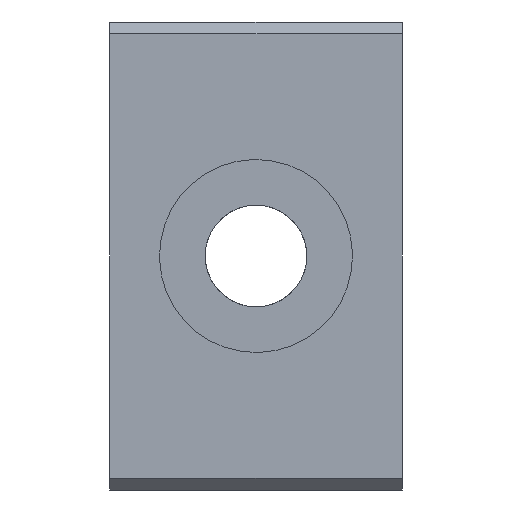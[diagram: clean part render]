
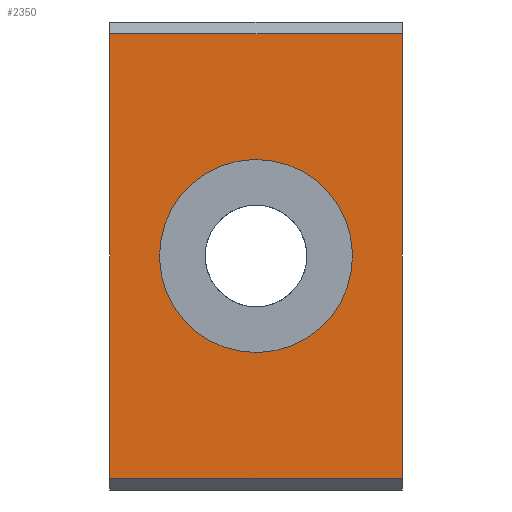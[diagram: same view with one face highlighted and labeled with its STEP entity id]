
A CAD part, left-side view. The second image highlights one B-rep face of the part: STEP entity #2350.
In plain terms, the highlighted planar face has unit normal (-1, 0, 0).
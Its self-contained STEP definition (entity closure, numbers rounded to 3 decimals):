
#256=CARTESIAN_POINT('Line Origine',(-50.,0.,0.)) ;
#260=CARTESIAN_POINT('Vertex',(-50.,0.,-19.)) ;
#262=CARTESIAN_POINT('Vertex',(-50.,0.,19.)) ;
#1351=CARTESIAN_POINT('Axis2P3D Location',(-50.,12.5,0.)) ;
#1355=CARTESIAN_POINT('Vertex',(-50.,19.74,3.955)) ;
#1357=CARTESIAN_POINT('Vertex',(-50.,5.26,-3.955)) ;
#1386=CARTESIAN_POINT('Axis2P3D Location',(-50.,12.5,0.)) ;
#2316=CARTESIAN_POINT('Axis2P3D Location',(-50.,0.,19.)) ;
#2321=CARTESIAN_POINT('Line Origine',(-50.,12.5,-19.)) ;
#2325=CARTESIAN_POINT('Vertex',(-50.,25.,-19.)) ;
#2328=CARTESIAN_POINT('Line Origine',(-50.,12.5,19.)) ;
#2332=CARTESIAN_POINT('Vertex',(-50.,25.,19.)) ;
#2335=CARTESIAN_POINT('Line Origine',(-50.,25.,0.)) ;
#257=DIRECTION('Vector Direction',(0.,0.,-1.)) ;
#1352=DIRECTION('Axis2P3D Direction',(1.,0.,0.)) ;
#1387=DIRECTION('Axis2P3D Direction',(1.,0.,0.)) ;
#2317=DIRECTION('Axis2P3D Direction',(1.,0.,0.)) ;
#2318=DIRECTION('Axis2P3D XDirection',(0.,0.,-1.)) ;
#2322=DIRECTION('Vector Direction',(0.,1.,0.)) ;
#2329=DIRECTION('Vector Direction',(0.,1.,0.)) ;
#2336=DIRECTION('Vector Direction',(0.,0.,-1.)) ;
#1353=AXIS2_PLACEMENT_3D('Circle Axis2P3D',#1351,#1352,$) ;
#1388=AXIS2_PLACEMENT_3D('Circle Axis2P3D',#1386,#1387,$) ;
#2319=AXIS2_PLACEMENT_3D('Plane Axis2P3D',#2316,#2317,#2318) ;
#2341=ORIENTED_EDGE('',*,*,#2327,.F.) ;
#2342=ORIENTED_EDGE('',*,*,#264,.T.) ;
#2343=ORIENTED_EDGE('',*,*,#2334,.T.) ;
#2344=ORIENTED_EDGE('',*,*,#2339,.F.) ;
#2347=ORIENTED_EDGE('',*,*,#1390,.T.) ;
#2348=ORIENTED_EDGE('',*,*,#1359,.T.) ;
#2349=FACE_BOUND('',#2346,.T.) ;
#258=VECTOR('Line Direction',#257,1.) ;
#2323=VECTOR('Line Direction',#2322,1.) ;
#2330=VECTOR('Line Direction',#2329,1.) ;
#2337=VECTOR('Line Direction',#2336,1.) ;
#2350=ADVANCED_FACE('',(#2345,#2349),#2320,.F.) ;
#1354=CIRCLE('generated circle',#1353,8.25) ;
#1389=CIRCLE('generated circle',#1388,8.25) ;
#264=EDGE_CURVE('',#261,#263,#259,.F.) ;
#1359=EDGE_CURVE('',#1356,#1358,#1354,.T.) ;
#1390=EDGE_CURVE('',#1358,#1356,#1389,.T.) ;
#2327=EDGE_CURVE('',#261,#2326,#2324,.T.) ;
#2334=EDGE_CURVE('',#263,#2333,#2331,.T.) ;
#2339=EDGE_CURVE('',#2326,#2333,#2338,.F.) ;
#2340=EDGE_LOOP('',(#2341,#2342,#2343,#2344)) ;
#2346=EDGE_LOOP('',(#2347,#2348)) ;
#2345=FACE_OUTER_BOUND('',#2340,.T.) ;
#259=LINE('Line',#256,#258) ;
#2324=LINE('Line',#2321,#2323) ;
#2331=LINE('Line',#2328,#2330) ;
#2338=LINE('Line',#2335,#2337) ;
#2320=PLANE('Plane',#2319) ;
#261=VERTEX_POINT('',#260) ;
#263=VERTEX_POINT('',#262) ;
#1356=VERTEX_POINT('',#1355) ;
#1358=VERTEX_POINT('',#1357) ;
#2326=VERTEX_POINT('',#2325) ;
#2333=VERTEX_POINT('',#2332) ;
